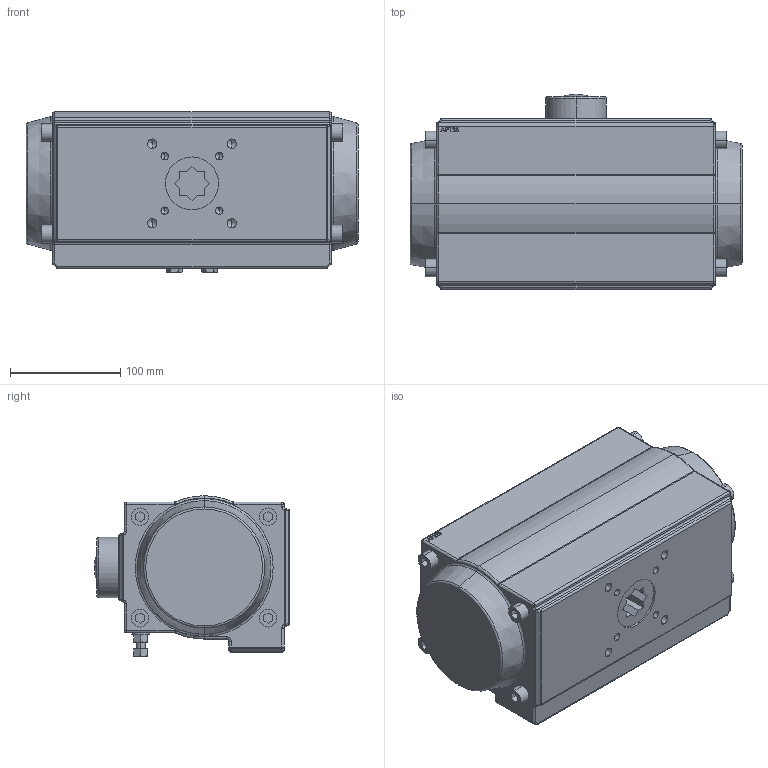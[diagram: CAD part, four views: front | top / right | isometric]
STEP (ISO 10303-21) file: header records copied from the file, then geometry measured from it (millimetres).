
FILE_DESCRIPTION (( 'STEP AP203' ), '1' );
FILE_NAME ('AP125.STEP', '2020-04-08T11:53:52', ( '' ), ( '' ), 'SwSTEP 2.0', 'SolidWorks 2017', '' );
FILE_SCHEMA (( 'CONFIG_CONTROL_DESIGN' ));
Length unit declared in the file: millimetre
Products named in the file (1): AP125
Bounding box: 301 x 177 x 145.52 mm (x, y, z)
Volume: 5432656.3 mm3; surface area: 212029.6 mm2
Topology: 1 solids, 1 shells, 505 faces, 1198 edges, 705 vertices
Faces by surface type: plane 210, cylinder 126, cone 68, bspline 37, torus 32, sphere 32
Entity records: 15939 total; most frequent: CARTESIAN_POINT 4628, DIRECTION 2322, ORIENTED_EDGE 2296, EDGE_CURVE 1148, AXIS2_PLACEMENT_3D 827, VERTEX_POINT 705, LINE 668, VECTOR 668
